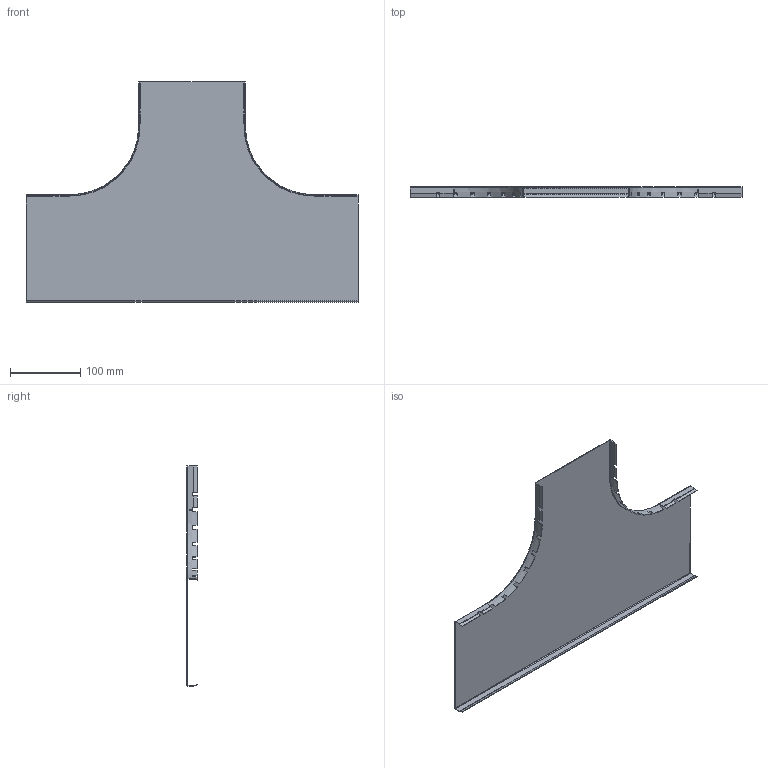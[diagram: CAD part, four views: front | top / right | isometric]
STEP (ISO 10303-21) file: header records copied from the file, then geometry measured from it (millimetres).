
FILE_DESCRIPTION (( 'STEP AP203' ), '1' );
FILE_NAME ('TTERC 150.STEP', '2020-02-12T08:34:32', ( '' ), ( '' ), 'SwSTEP 2.0', 'SolidWorks 2019', '' );
FILE_SCHEMA (( 'CONFIG_CONTROL_DESIGN' ));
Length unit declared in the file: millimetre
Products named in the file (1): TTERC 150
Bounding box: 472 x 15.02 x 312.8 mm (x, y, z)
Volume: 90943.4 mm3; surface area: 228871.4 mm2
Topology: 1 solids, 1 shells, 224 faces, 546 edges, 324 vertices
Faces by surface type: plane 150, bspline 38, cylinder 32, torus 4
Entity records: 6884 total; most frequent: CARTESIAN_POINT 1824, ORIENTED_EDGE 1092, DIRECTION 933, EDGE_CURVE 546, VECTOR 351, LINE 351, VERTEX_POINT 324, AXIS2_PLACEMENT_3D 291
